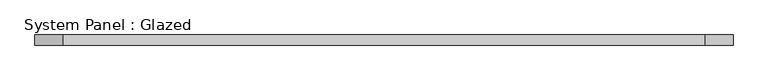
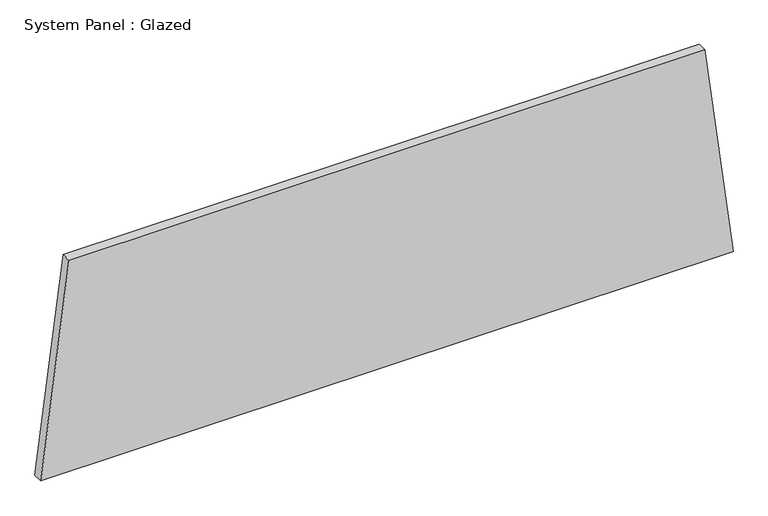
"""IFC4 building model written with IfcOpenShell, lengths in millimetres: plate geometry, System Panel : Glazed."""

from ifc_helpers import new_model, si_unit, frame, origin, place, context, project, spatial, polyline, outline, extrude, source, transform, mapped, element, save


def system_panel_glazed_c5500596(model_context):
    return source(origin(), model_context, "Body", "SweptSolid", [
        extrude(outline(polyline([(0.0, -878.2546532), (0.0, 878.2546532), (566.7196715, 806.8616504), (566.7196715, -806.8616504), (0.0, -878.2546532)])), frame((0.0, -44.45, 0.0), z_axis=(0.0, 1.0, 0.0), x_axis=(0.0, 0.0, 1.0)), (0.0, 0.0, 1.0), 25.4),
    ])


if __name__ == "__main__":
    model = new_model("IFC4")
    model_context = context("Model", 3, world=origin())
    ifc_project = project(units=[si_unit("LENGTHUNIT", "METRE", prefix="MILLI")], contexts=[model_context])
    site = spatial("IfcSite", under=ifc_project)
    building = spatial("IfcBuilding", under=site)
    placement = place(None, origin())
    system_panel_glazed_shape = system_panel_glazed_c5500596(model_context)
    element("IfcPlate", 1, ObjectType="System Panel : Glazed", at=placement, inside=building, context=model_context, shape_type="MappedRepresentation", body=[
        mapped(system_panel_glazed_shape, transform((0.0, 0.0, 0.0), x_axis=(1.0, 0.0, 0.0), y_axis=(0.0, 1.0, 0.0), z_axis=(0.0, 0.0, 1.0))),
    ])
    save(model, "model.ifc")
